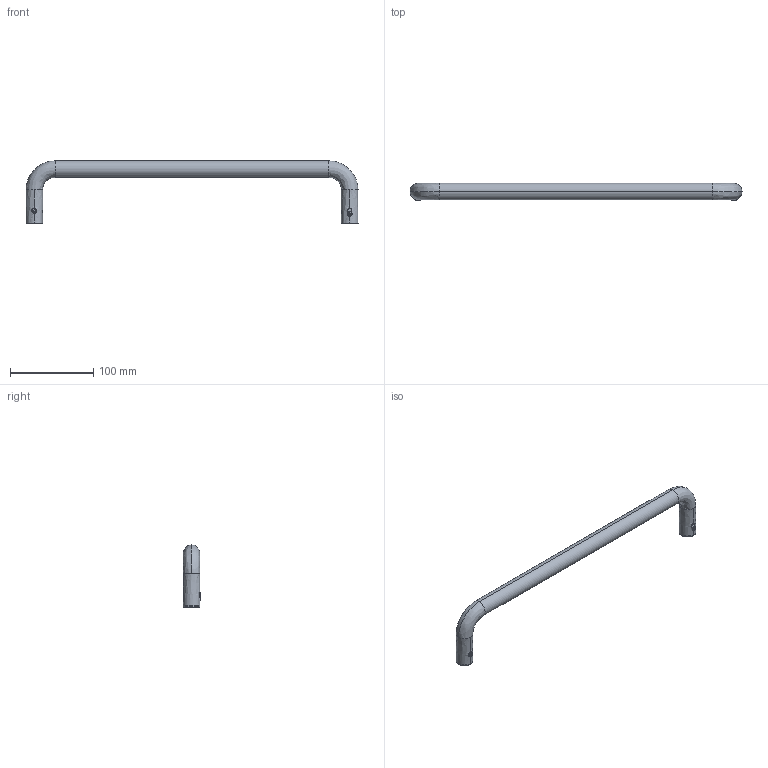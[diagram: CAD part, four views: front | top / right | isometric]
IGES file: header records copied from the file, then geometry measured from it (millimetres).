
Start section: SolidWorks IGES file using analytic representation for surfaces
Global section: file name: G:\Projects\New project\For Marketing\IGS\IGS\2015-10-15\2380164VW.IGS; native system: SolidWorks 2010; preprocessor: SolidWorks 2010; author: linda; date: 151009.143146; units: millimetre
Bounding box: 400 x 21 x 75 mm (x, y, z)
Surface area: 37176.9 mm2 (no closed solid volume)
Topology: 0 solids, 0 shells, 65 faces, 932 edges, 932 vertices
Faces by surface type: revolution 42, bspline 23
